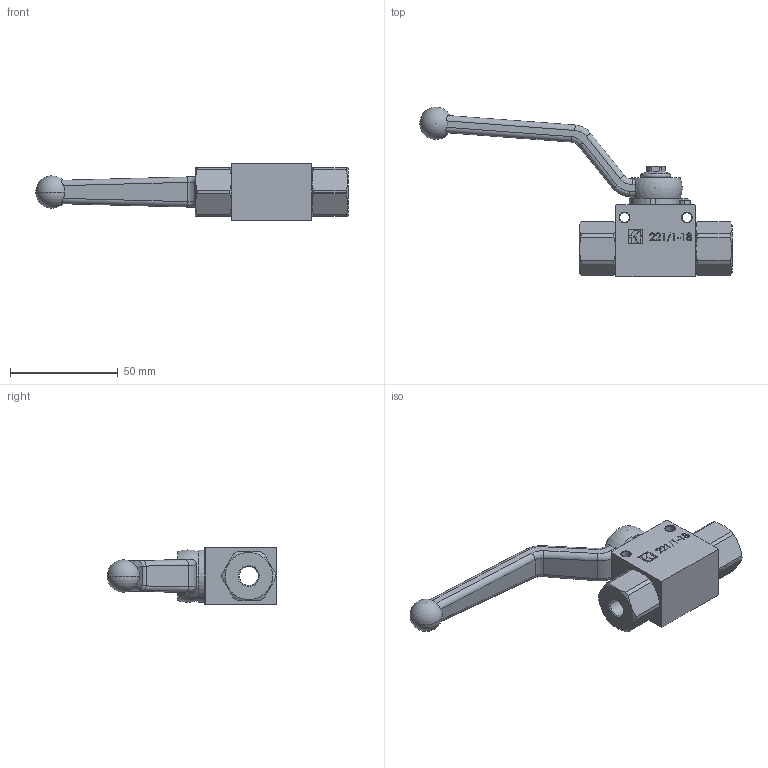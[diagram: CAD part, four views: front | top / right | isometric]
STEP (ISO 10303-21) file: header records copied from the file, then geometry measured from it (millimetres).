
FILE_DESCRIPTION (( 'STEP AP214' ), '1' );
FILE_NAME ('221-1-18.STEP', '2015-05-15T13:17:30', ( '' ), ( '' ), 'SwSTEP 2.0', 'SolidWorks 2014', '' );
FILE_SCHEMA (( 'AUTOMOTIVE_DESIGN' ));
Length unit declared in the file: millimetre
Products named in the file (1): 221-1-18
Bounding box: 145 x 78.75 x 26 mm (x, y, z)
Surface area: 16287.7 mm2 (no closed solid volume)
Topology: 0 solids, 3 shells, 211 faces, 636 edges, 426 vertices
Faces by surface type: plane 87, cylinder 57, bspline 36, cone 22, sphere 5, torus 4
Entity records: 11561 total; most frequent: CARTESIAN_POINT 3861, ORIENTED_EDGE 1138, DIRECTION 1005, EDGE_CURVE 623, VERTEX_POINT 418, VECTOR 337, LINE 337, AXIS2_PLACEMENT_3D 334
